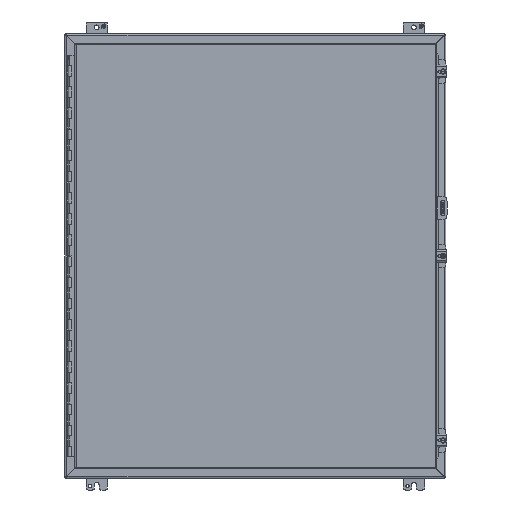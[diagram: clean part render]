
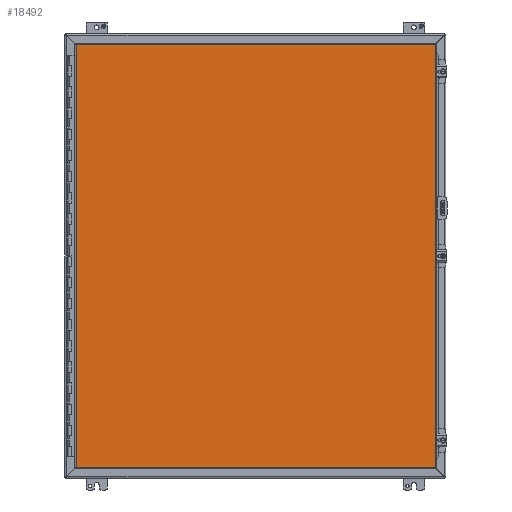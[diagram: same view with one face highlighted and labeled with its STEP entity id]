
A CAD part, front view. The second image highlights one B-rep face of the part: STEP entity #18492.
In plain terms, the highlighted planar face has unit normal (0, -1, 0).
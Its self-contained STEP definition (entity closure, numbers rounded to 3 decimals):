
#1162=LINE('',#26804,#2928);
#1163=LINE('',#26807,#2929);
#1164=LINE('',#26809,#2930);
#1165=LINE('',#26811,#2931);
#2928=VECTOR('',#21808,1000.);
#2929=VECTOR('',#21809,1000.);
#2930=VECTOR('',#21810,1000.);
#2931=VECTOR('',#21811,1000.);
#5714=ORIENTED_EDGE('',*,*,#10740,.T.);
#5715=ORIENTED_EDGE('',*,*,#10741,.T.);
#5716=ORIENTED_EDGE('',*,*,#10742,.T.);
#5717=ORIENTED_EDGE('',*,*,#10743,.T.);
#10740=EDGE_CURVE('',#13317,#13318,#1162,.T.);
#10741=EDGE_CURVE('',#13318,#13319,#1163,.T.);
#10742=EDGE_CURVE('',#13319,#13320,#1164,.T.);
#10743=EDGE_CURVE('',#13320,#13317,#1165,.T.);
#13317=VERTEX_POINT('',#26805);
#13318=VERTEX_POINT('',#26806);
#13319=VERTEX_POINT('',#26808);
#13320=VERTEX_POINT('',#26810);
#15543=EDGE_LOOP('',(#5714,#5715,#5716,#5717));
#16695=FACE_BOUND('',#15543,.T.);
#17770=PLANE('',#19757);
#18492=ADVANCED_FACE('',(#16695),#17770,.T.);
#19757=AXIS2_PLACEMENT_3D('',#26803,#21806,#21807);
#21806=DIRECTION('',(0.,-1.,0.));
#21807=DIRECTION('',(0.,0.,-1.));
#21808=DIRECTION('',(0.,0.,-1.));
#21809=DIRECTION('',(1.,0.,0.));
#21810=DIRECTION('',(0.,0.,1.));
#21811=DIRECTION('',(-1.,0.,0.));
#26803=CARTESIAN_POINT('',(-431.444,0.,-507.86));
#26804=CARTESIAN_POINT('',(-431.444,0.,507.86));
#26805=CARTESIAN_POINT('',(-431.444,0.,507.86));
#26806=CARTESIAN_POINT('',(-431.444,0.,-507.86));
#26807=CARTESIAN_POINT('',(-431.444,0.,-507.86));
#26808=CARTESIAN_POINT('',(431.444,0.,-507.86));
#26809=CARTESIAN_POINT('',(431.444,0.,-507.86));
#26810=CARTESIAN_POINT('',(431.444,0.,507.86));
#26811=CARTESIAN_POINT('',(431.444,0.,507.86));
